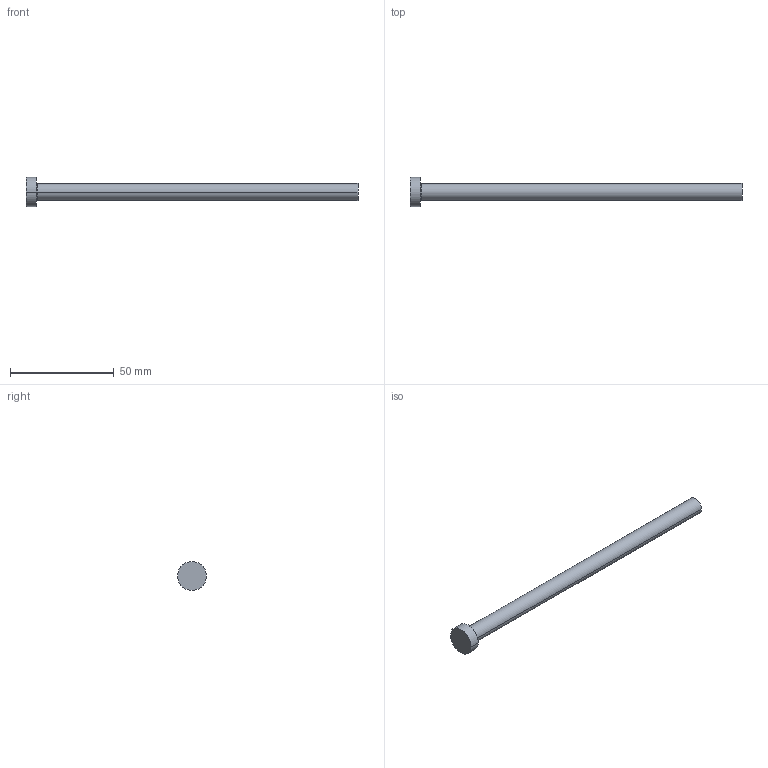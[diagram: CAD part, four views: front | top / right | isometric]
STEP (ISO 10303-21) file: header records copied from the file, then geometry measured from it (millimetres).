
FILE_DESCRIPTION (( 'STEP AP214' ), '1' );
FILE_NAME ('A-8,2x160.STEP', '2020-05-29T15:48:09', ( 'August' ), ( '' ), 'SwSTEP 2.0', 'SolidWorks 2018', '' );
FILE_SCHEMA (( 'AUTOMOTIVE_DESIGN' ));
Length unit declared in the file: millimetre
Products named in the file (1): A-8,2x160
Bounding box: 160 x 14 x 14 mm (x, y, z)
Volume: 8956.7 mm3; surface area: 4515.3 mm2
Topology: 1 solids, 1 shells, 9 faces, 16 edges, 10 vertices
Faces by surface type: cylinder 4, plane 3, torus 2
Entity records: 260 total; most frequent: DIRECTION 48, CARTESIAN_POINT 36, ORIENTED_EDGE 32, AXIS2_PLACEMENT_3D 22, EDGE_CURVE 16, CIRCLE 12, EDGE_LOOP 10, VERTEX_POINT 10
